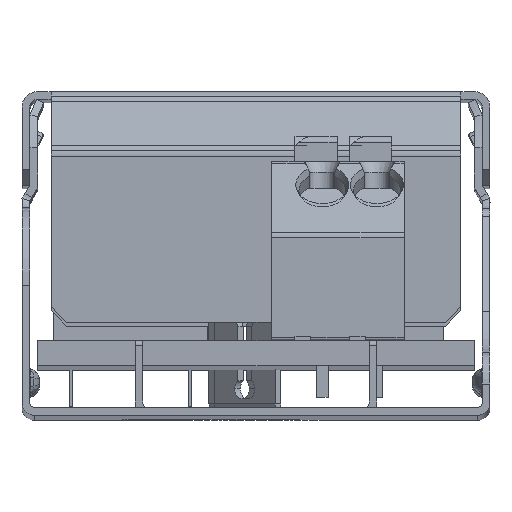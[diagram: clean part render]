
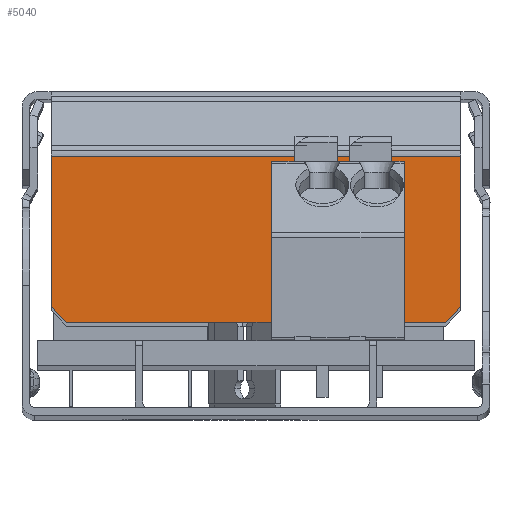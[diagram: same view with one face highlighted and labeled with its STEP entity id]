
A CAD part, top view. The second image highlights one B-rep face of the part: STEP entity #5040.
In plain terms, the highlighted planar face has unit normal (0, 0, 1).
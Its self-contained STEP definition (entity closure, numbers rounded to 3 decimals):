
#1533=DIRECTION('',(-0.707,0.707,0.));
#1534=VECTOR('',#1533,1.414);
#1535=CARTESIAN_POINT('',(167.449,-41.164,118.831));
#1536=LINE('',#1535,#1534);
#1537=DIRECTION('',(0.,1.,0.));
#1538=VECTOR('',#1537,9.65);
#1539=CARTESIAN_POINT('',(166.449,-40.164,118.831));
#1540=LINE('',#1539,#1538);
#1541=DIRECTION('',(0.,-1.,0.));
#1542=VECTOR('',#1541,9.65);
#1543=CARTESIAN_POINT('',(192.72,-30.514,118.831));
#1544=LINE('',#1543,#1542);
#1545=DIRECTION('',(-0.707,-0.707,0.));
#1546=VECTOR('',#1545,1.414);
#1547=CARTESIAN_POINT('',(192.72,-40.164,118.831));
#1548=LINE('',#1547,#1546);
#1549=DIRECTION('',(-1.,0.,0.));
#1550=VECTOR('',#1549,24.271);
#1551=CARTESIAN_POINT('',(191.72,-41.164,118.831));
#1552=LINE('',#1551,#1550);
#1553=DIRECTION('',(-1.,0.,0.));
#1554=VECTOR('',#1553,26.271);
#1555=CARTESIAN_POINT('',(192.72,-30.514,118.831));
#1556=LINE('',#1555,#1554);
#2437=CARTESIAN_POINT('',(166.449,-30.514,118.831));
#2438=VERTEX_POINT('',#2437);
#2439=CARTESIAN_POINT('',(166.449,-40.164,118.831));
#2440=VERTEX_POINT('',#2439);
#2459=CARTESIAN_POINT('',(192.72,-40.164,118.831));
#2460=VERTEX_POINT('',#2459);
#2461=CARTESIAN_POINT('',(192.72,-30.514,118.831));
#2462=VERTEX_POINT('',#2461);
#2699=CARTESIAN_POINT('',(191.72,-41.164,118.831));
#2700=VERTEX_POINT('',#2699);
#2701=CARTESIAN_POINT('',(167.449,-41.164,118.831));
#2702=VERTEX_POINT('',#2701);
#5026=CARTESIAN_POINT('',(193.245,-30.301,118.831));
#5027=DIRECTION('',(0.,0.,1.));
#5028=DIRECTION('',(-1.,0.,0.));
#5029=AXIS2_PLACEMENT_3D('',#5026,#5027,#5028);
#5030=PLANE('',#5029);
#5031=ORIENTED_EDGE('',*,*,#5021,.T.);
#5032=ORIENTED_EDGE('',*,*,#3383,.T.);
#5034=ORIENTED_EDGE('',*,*,#5033,.F.);
#5035=ORIENTED_EDGE('',*,*,#3431,.T.);
#5036=ORIENTED_EDGE('',*,*,#4994,.T.);
#5037=ORIENTED_EDGE('',*,*,#5008,.T.);
#5038=EDGE_LOOP('',(#5031,#5032,#5034,#5035,#5036,#5037));
#5039=FACE_OUTER_BOUND('',#5038,.F.);
#3383=EDGE_CURVE('',#2440,#2438,#1540,.T.);
#3431=EDGE_CURVE('',#2462,#2460,#1544,.T.);
#4994=EDGE_CURVE('',#2460,#2700,#1548,.T.);
#5008=EDGE_CURVE('',#2700,#2702,#1552,.T.);
#5021=EDGE_CURVE('',#2702,#2440,#1536,.T.);
#5033=EDGE_CURVE('',#2462,#2438,#1556,.T.);
#5040=ADVANCED_FACE('',(#5039),#5030,.T.);
